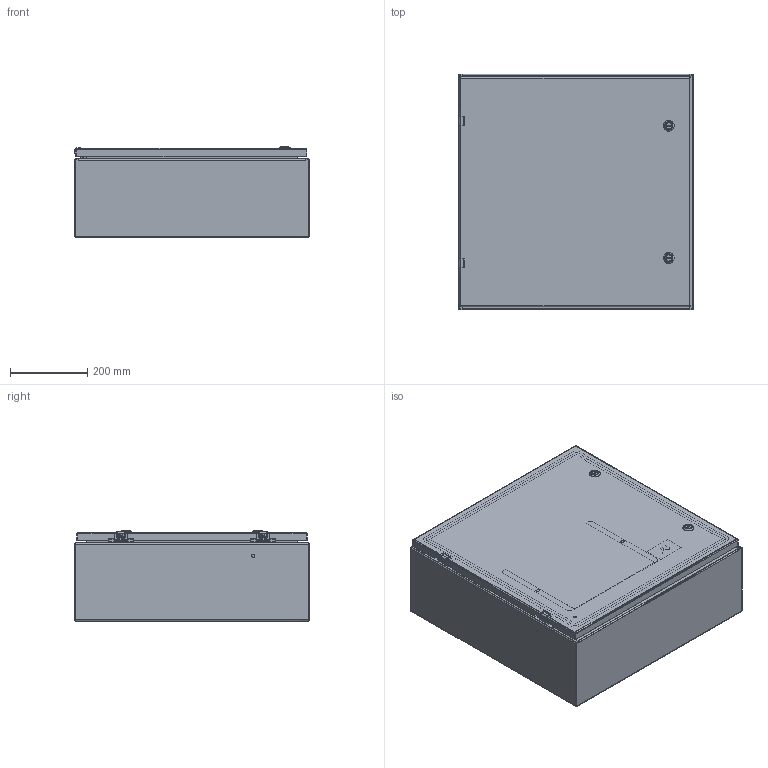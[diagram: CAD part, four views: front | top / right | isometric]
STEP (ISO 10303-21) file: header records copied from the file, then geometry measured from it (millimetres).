
FILE_DESCRIPTION((''),'2;1');
FILE_NAME('MODEL-306_ASM','2026-04-16T14:12:00',('johnh'),('SAGINAW CONTROL & ENGINEERING'),'CREO PARAMETRIC BY PTC INC, 2021284','CREO PARAMETRIC BY PTC INC, 2021284','');
FILE_SCHEMA(('AUTOMOTIVE_DESIGN { 1 0 10303 214 1 1 1 1 }'));
Length unit declared in the file: inch
Products named in the file (30): MODEL-306-BDY; MODEL-306-TP; MODEL-306-BTM; MODEL-306-DR; 100837; 100882; 111267; 125597; 100794_SHAFT; 100794_INSERT; 100794_CAM; 100794_NUT; 100794_SCREW; 100794_ASM; MODEL-306-DOOR-GASKET; 126392; 126392_ASM; 126395; 102483; 101226; 101389; 102140; 132757; MODEL-306-DOOR-ASSY_ASM; 101653; 122191; SUBPANEL; 100904; SUBPANEL-SUBASSEMBLY_ASM; MODEL-306_ASM
Assembly tree (51 placements, depth 4):
  MODEL-306_ASM
    MODEL-306-BDY
    MODEL-306-TP
    MODEL-306-BTM
    MODEL-306-DOOR-ASSY_ASM
      MODEL-306-DR
      100837  x3
      100882  x2
      111267
      125597
      100794_ASM  x2
        100794_SHAFT
        100794_INSERT
        100794_CAM
        100794_NUT
        100794_SCREW
      MODEL-306-DOOR-GASKET
      126392_ASM  x2
        126392
      126395  x2
      102483  x6
      101226  x2
      101389  x2
      102140  x2
      132757  x2
    100837
    101653  x4
    122191
    SUBPANEL-SUBASSEMBLY_ASM
      SUBPANEL
      100904  x4
Bounding box: 609.6 x 609.6 x 234.33 mm (x, y, z)
Volume: 4087399.8 mm3; surface area: 3733685.9 mm2
Topology: 52 solids, 52 shells, 3129 faces, 7952 edges, 4994 vertices
Faces by surface type: plane 1414, cylinder 865, bspline 448, torus 222, cone 124, sphere 56
Entity records: 88262 total; most frequent: CARTESIAN_POINT 24539, ORIENTED_EDGE 9184, DIRECTION 8668, PRESENTATION_STYLE_ASSIGNMENT 4793, EDGE_CURVE 4592, STYLED_ITEM 4516, CURVE_STYLE 4430, AXIS2_PLACEMENT_3D 3129
